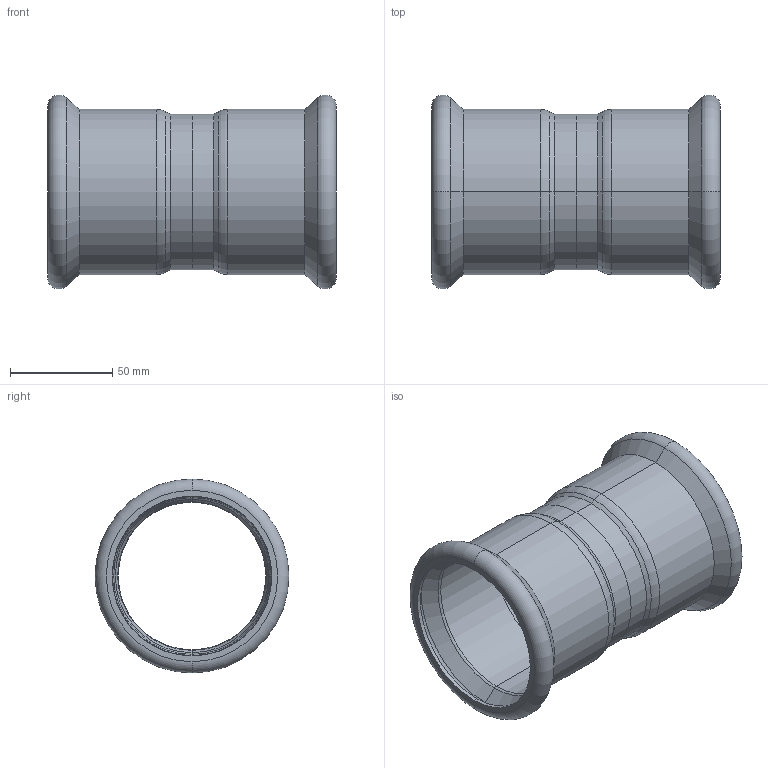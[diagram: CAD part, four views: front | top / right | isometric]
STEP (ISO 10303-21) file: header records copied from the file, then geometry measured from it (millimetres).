
FILE_DESCRIPTION (( 'STEP AP203' ), '1' );
FILE_NAME ('GDA5008.STEP', '2019-01-21T08:53:59', ( '' ), ( '' ), 'SwSTEP 2.0', 'SolidWorks 2015', '' );
FILE_SCHEMA (( 'CONFIG_CONTROL_DESIGN' ));
Length unit declared in the file: millimetre
Products named in the file (1): GDA5008
Bounding box: 141 x 94.67 x 94.67 mm (x, y, z)
Volume: 78475.7 mm3; surface area: 80403.8 mm2
Topology: 2 solids, 2 shells, 66 faces, 132 edges, 72 vertices
Faces by surface type: torus 24, cylinder 20, cone 16, plane 6
Entity records: 1791 total; most frequent: DIRECTION 362, CARTESIAN_POINT 271, ORIENTED_EDGE 264, AXIS2_PLACEMENT_3D 163, EDGE_CURVE 132, CIRCLE 96, VERTEX_POINT 72, EDGE_LOOP 72
